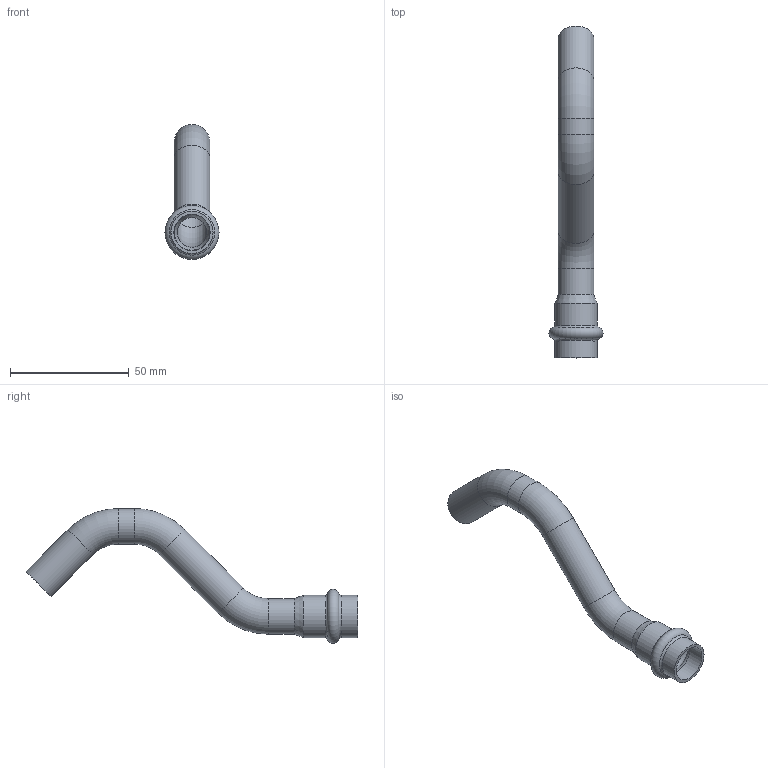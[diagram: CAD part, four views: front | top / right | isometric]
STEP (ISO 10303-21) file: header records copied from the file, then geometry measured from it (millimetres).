
FILE_DESCRIPTION(('STEP AP203'), '1');
FILE_NAME('覆.302661.001.000 捘 - VTi.970.I.001515', '', ('UNSPECIFIED'), ('UNSPECIFIED'), 'C3D Converter', 'C3D Toolkit', '');
FILE_SCHEMA(('CONFIG_CONTROL_DESIGN'));
Length unit declared in the file: millimetre
Products named in the file (1): ВР.302661.001.000 СБ
Bounding box: 22.79 x 140 x 56.89 mm (x, y, z)
Volume: 9303.7 mm3; surface area: 14981.3 mm2
Topology: 1 solids, 1 shells, 29 faces, 60 edges, 33 vertices
Faces by surface type: torus 13, cylinder 12, plane 2, cone 2
Full cylindrical faces by diameter (mm): 12.5 x4, 15 x4, 15.3 x2, 17.8 x2
Entity records: 668 total; most frequent: DIRECTION 126, CARTESIAN_POINT 96, ORIENTED_EDGE 66, AXIS2_PLACEMENT_3D 63, EDGE_LOOP 58, FACE_OUTER_BOUND 46, EDGE_CURVE 33, VERTEX_POINT 33
